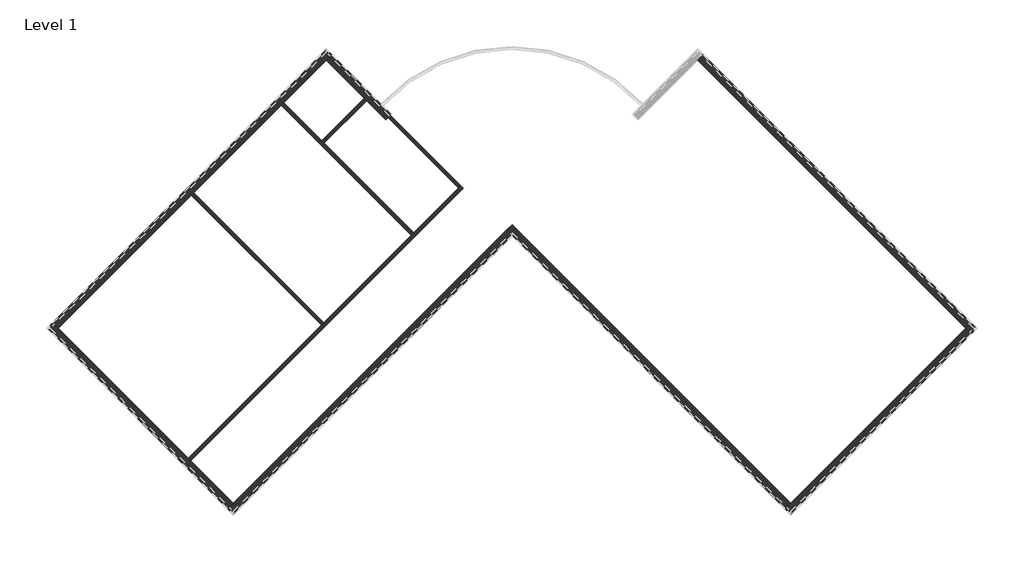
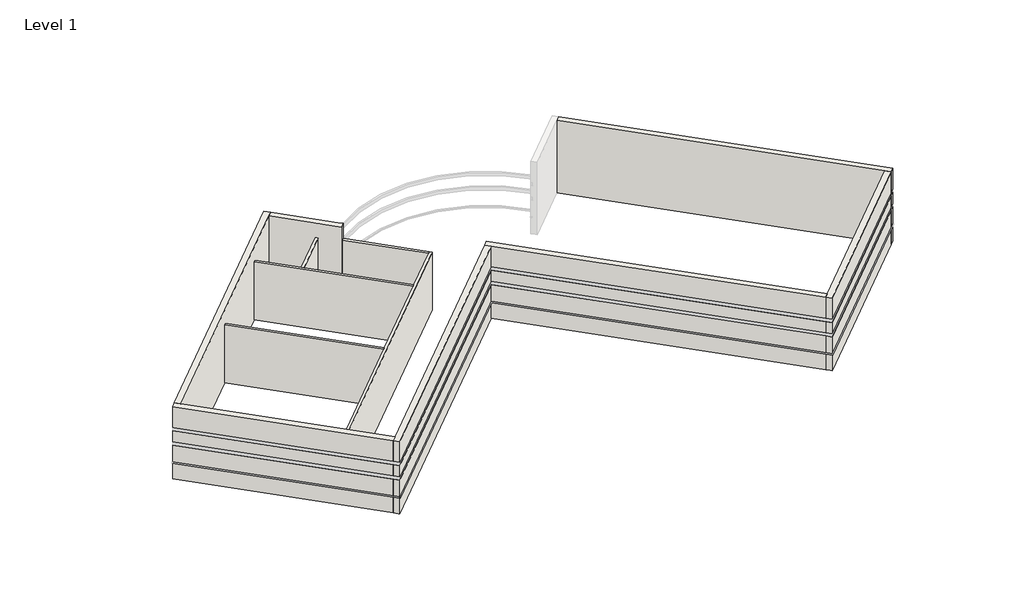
# One storey, part 1 of 2: 12 walls.
"""IFC4 building model written with IfcOpenShell, lengths in millimetres."""

import ifcopenshell
import ifcopenshell.guid

model = None  # the IFC model being written
_history = None  # IfcOwnerHistory: only IFC2X3 demands one
_inside = {}  # id of a spatial element -> (the spatial element, [elements in it])
_under = {}  # id of a project, library or spatial element -> (it, [spatial elements below it])
_declared = {}  # id of a project -> (the project, [libraries it declares])
_typed = {}  # id of a type object -> (the type object, [elements of that type])
_made_of = {}  # id of a material, layer set ... -> (it, [elements and type objects made of it])


def new_model(schema):
    """Start an empty IFC model of exactly this schema.

    Asked for "IFC4X3", IfcOpenShell would pick the latest addendum, in which some entities
    have other attributes; the version numbers below select the first issue.
    IFC2X3 requires an IfcOwnerHistory on every rooted entity: one is made here for all.
    """
    global model, _history
    if schema == "IFC4X3":
        model = ifcopenshell.file(schema_version=(4, 3, 0, 0))
    else:
        model = ifcopenshell.file(schema=schema)
    _inside.clear()
    _under.clear()
    _declared.clear()
    _typed.clear()
    _made_of.clear()
    _history = None
    if model.schema == "IFC2X3":
        org = make("IfcOrganization", Name="unknown")
        user = make(
            "IfcPersonAndOrganization",
            ThePerson=make("IfcPerson", FamilyName="unknown"),
            TheOrganization=org,
        )
        app = make(
            "IfcApplication",
            ApplicationDeveloper=org,
            Version="unknown",
            ApplicationFullName="unknown",
            ApplicationIdentifier="unknown",
        )
        _history = make(
            "IfcOwnerHistory",
            OwningUser=user,
            OwningApplication=app,
            ChangeAction="ADDED",
            CreationDate=0,
        )
    return model


def make(cls, **values):
    """One entity of the class cls with the attributes given. An attribute that is None is left unset."""
    return model.create_entity(
        cls, **{name: value for name, value in values.items() if value is not None}
    )


def rooted(cls, **values):
    """An entity with a GlobalId (a new one), such as an element, a storey or a relation."""
    return make(cls, GlobalId=ifcopenshell.guid.new(), OwnerHistory=_history, **values)


def si_unit(unit_type, name, prefix=None):
    """IfcSIUnit, for example si_unit("LENGTHUNIT", "METRE", prefix="MILLI")."""
    return make("IfcSIUnit", UnitType=unit_type, Prefix=prefix, Name=name)


def assignment(units):
    """IfcUnitAssignment: the units of a project."""
    return None if units is None else make("IfcUnitAssignment", Units=units)


def point(xyz):
    """IfcCartesianPoint."""
    return None if xyz is None else make("IfcCartesianPoint", Coordinates=xyz)


def direction(xyz):
    """IfcDirection."""
    return None if xyz is None else make("IfcDirection", DirectionRatios=xyz)


def frame(location, z_axis=None, x_axis=None):
    """IfcAxis2Placement3D, a coordinate frame: its origin and axes. An axis left out is left unset."""
    return make(
        "IfcAxis2Placement3D",
        Location=point(location),
        Axis=direction(z_axis),
        RefDirection=direction(x_axis),
    )


def origin():
    """The frame at (0, 0, 0) with its axes left unset."""
    return frame((0.0, 0.0, 0.0))


def origin_with_axes():
    """The frame at (0, 0, 0) with the z axis (0, 0, 1) and the x axis (1, 0, 0) written out."""
    return frame((0.0, 0.0, 0.0), z_axis=(0.0, 0.0, 1.0), x_axis=(1.0, 0.0, 0.0))


def place(relative_to, where):
    """IfcLocalPlacement: puts the frame where relative to a parent placement (None: the world)."""
    return make(
        "IfcLocalPlacement", PlacementRelTo=relative_to, RelativePlacement=where
    )


def context(
    kind, dimensions, precision=None, world=None, true_north=None, identifier=None
):
    """IfcGeometricRepresentationContext, for example the 3D "Model" context."""
    return make(
        "IfcGeometricRepresentationContext",
        ContextIdentifier=identifier,
        ContextType=kind,
        CoordinateSpaceDimension=dimensions,
        Precision=precision,
        WorldCoordinateSystem=world,
        TrueNorth=true_north,
    )


def project(units=None, contexts=None):
    """IfcProject with its units and contexts."""
    return rooted(
        "IfcProject",
        Name="project",
        RepresentationContexts=contexts,
        UnitsInContext=assignment(units),
    )


def spatial(cls, under=None, at=None, **own):
    """A site, building, storey or space (cls), placed at a placement, below another one or the project."""
    s = rooted(cls, ObjectPlacement=at, **own)
    if under is not None:
        _under.setdefault(under.id(), (under, []))[1].append(s)
    return s


def polyline(points):
    """IfcPolyline through the points."""
    return make("IfcPolyline", Points=[point(p) for p in points])


def outline(outer, holes=None, kind="AREA"):
    """IfcArbitraryClosedProfileDef: a profile drawn as a closed curve; with holes, ...WithVoids."""
    if holes is None:
        return make("IfcArbitraryClosedProfileDef", ProfileType=kind, OuterCurve=outer)
    return make(
        "IfcArbitraryProfileDefWithVoids",
        ProfileType=kind,
        OuterCurve=outer,
        InnerCurves=holes,
    )


def extrude(swept, where, along, depth):
    """IfcExtrudedAreaSolid: the profile swept, set in the frame where, extruded along a direction by depth."""
    return make(
        "IfcExtrudedAreaSolid",
        SweptArea=swept,
        Position=where,
        ExtrudedDirection=direction(along),
        Depth=depth,
    )


def faces_of(points, faces, orient=None, outer=None):
    """IfcFace entities. A face is a list of loops; a loop is a list of indices into points, from 0.

    orient and outer hold one flag for each loop. By default every Orientation is true, the
    first loop of a face is its IfcFaceOuterBound and the others are IfcFaceBound.
    """
    made = []
    for i, loops in enumerate(faces):
        bounds = []
        for j, loop in enumerate(loops):
            is_outer = j == 0 if outer is None else outer[i][j]
            bounds.append(
                make(
                    "IfcFaceOuterBound" if is_outer else "IfcFaceBound",
                    Bound=make("IfcPolyLoop", Polygon=[points[k] for k in loop]),
                    Orientation=True if orient is None else orient[i][j],
                )
            )
        made.append(make("IfcFace", Bounds=bounds))
    return made


def faceted_brep(points, faces, orient=None, outer=None, voids=None):
    """IfcFacetedBrep: a solid bounded by flat faces; with voids (closed shells), ...WithVoids."""
    shared = [point(p) for p in points]
    hull = make("IfcClosedShell", CfsFaces=faces_of(shared, faces, orient, outer))
    if voids is None:
        return make("IfcFacetedBrep", Outer=hull)
    return make(
        "IfcFacetedBrepWithVoids",
        Outer=hull,
        Voids=[
            make(cls, CfsFaces=faces_of(shared, fs, o, b)) for cls, fs, o, b in voids
        ],
    )


def shape(context_of_items, identifier, shape_type, items):
    """IfcShapeRepresentation: the items that make up one representation, for example the "Body"."""
    return make(
        "IfcShapeRepresentation",
        ContextOfItems=context_of_items,
        RepresentationIdentifier=identifier,
        RepresentationType=shape_type,
        Items=items,
    )


def made_of(thing, what):
    """Note that an element or type object is made of a material, layer set ...; save() writes the relation."""
    if what is not None:
        _made_of.setdefault(what.id(), (what, []))[1].append(thing)
    return thing


def element(
    cls,
    number,
    at=None,
    inside=None,
    cuts=None,
    type_object=None,
    material=None,
    context=None,
    identifier="Body",
    shape_type=None,
    held_by="IfcProductDefinitionShape",
    body=None,
    shapes=None,
    **own,
):
    """One element of the class cls, such as IfcWall. Its Tag is "e" and its number.

    at: its placement. inside: the storey or other place that contains it. cuts: it is an
    opening in that element (IfcRelVoidsElement). A single representation is given by context,
    identifier, shape_type and body (its items); several are given by shapes. held_by: the class
    of the entity that holds the representations. save() writes the other relations.
    """
    e = rooted(cls, Tag="e%d" % number, ObjectPlacement=at, **own)
    if body is not None:
        shapes = [shape(context, identifier, shape_type, body)]
    if shapes is not None:
        e.Representation = make(held_by, Representations=shapes)
    if inside is not None:
        _inside.setdefault(inside.id(), (inside, []))[1].append(e)
    if cuts is not None:
        rooted(
            "IfcRelVoidsElement", RelatingBuildingElement=cuts, RelatedOpeningElement=e
        )
    if type_object is not None:
        _typed.setdefault(type_object.id(), (type_object, []))[1].append(e)
    return made_of(e, material)


def aggregate(whole, parts):
    """IfcRelAggregates: a whole, such as a stair, and the parts it consists of."""
    return rooted("IfcRelAggregates", RelatingObject=whole, RelatedObjects=parts)


def save(model, path):
    """Write the relations noted so far, then the file.

    IfcRelAggregates (storeys below a building ...), IfcRelContainedInSpatialStructure (elements
    in a storey), IfcRelDefinesByType, IfcRelAssociatesMaterial and IfcRelDeclares: one each for
    every whole, place, type object, material and project.
    """
    for whole, parts in _under.values():
        aggregate(whole, parts)
    for where, things in _inside.values():
        rooted(
            "IfcRelContainedInSpatialStructure",
            RelatedElements=things,
            RelatingStructure=where,
        )
    for kind, things in _typed.values():
        rooted("IfcRelDefinesByType", RelatedObjects=things, RelatingType=kind)
    for what, things in _made_of.values():
        rooted("IfcRelAssociatesMaterial", RelatedObjects=things, RelatingMaterial=what)
    for by, libraries in _declared.values():
        rooted("IfcRelDeclares", RelatingContext=by, RelatedDefinitions=libraries)
    model.write(path)


model = new_model("IFC4")

# Units and contexts
model_context = context("Model", 3, world=origin())
ifc_project = project(units=[si_unit("LENGTHUNIT", "METRE", prefix="MILLI")], contexts=[model_context])

# Site, building, storey
site = spatial("IfcSite", under=ifc_project)
building = spatial("IfcBuilding", under=site)
storey = spatial("IfcBuildingStorey", under=building, Name="Level 1", Elevation=0.0)

# Walls
placement = place(None, origin())
element("IfcWall", 1, ObjectType="Exterior - Split Face and CMU on Mtl. Stud", at=placement, inside=storey, context=model_context, shape_type="Brep", body=[
    faceted_brep([(7404.7471239, 4430.5365699, 0.0), (19837.9117235, -8002.6280297, 0.0), (20087.1138309, -8251.830137, 0.0), (20087.1138309, -8251.830137, 1016.0), (20022.006974, -8186.7232802, 1016.0), (20022.006974, -8186.7232802, 1085.85), (20087.1138309, -8251.830137, 1085.85), (20087.1138309, -8251.830137, 2133.6), (20022.006974, -8186.7232802, 2133.6), (20022.006974, -8186.7232802, 2336.8), (20087.1138309, -8251.830137, 2336.8), (20087.1138309, -8251.830137, 3048.0), (20022.006974, -8186.7232802, 3048.0), (20022.006974, -8186.7232802, 3251.2), (20087.1138309, -8251.830137, 3251.2), (20087.1138309, -8251.830137, 4572.0), (19837.9117235, -8002.6280297, 4572.0), (7404.7471239, 4430.5365699, 4572.0), (7653.9492313, 4679.7386773, 4572.0), (20336.3159382, -8002.6280297, 4572.0), (20336.3159382, -8002.6280297, 3251.2), (7653.9492313, 4679.7386773, 3251.2), (20336.3159382, -8002.6280297, 0.0), (7653.9492313, 4679.7386773, 0.0), (7653.9492313, 4679.7386773, 1016.0), (20336.3159382, -8002.6280297, 1016.0), (20336.3159382, -8002.6280297, 1085.85), (7653.9492313, 4679.7386773, 1085.85), (7653.9492313, 4679.7386773, 2133.6), (20336.3159382, -8002.6280297, 2133.6), (20336.3159382, -8002.6280297, 2336.8), (7653.9492313, 4679.7386773, 2336.8), (7653.9492313, 4679.7386773, 3048.0), (20336.3159382, -8002.6280297, 3048.0), (7588.8423744, 4614.6318204, 0.0), (20271.2090814, -8067.7348866, 0.0), (20206.1022245, -8002.6280297, 1016.0), (7588.8423744, 4614.6318204, 1016.0), (7588.8423744, 4614.6318204, 1085.85), (20206.1022245, -8002.6280297, 1085.85), (20206.1022245, -8002.6280297, 2133.6), (7588.8423744, 4614.6318204, 2133.6), (7588.8423744, 4614.6318204, 2336.8), (20206.1022245, -8002.6280297, 2336.8), (20206.1022245, -8002.6280297, 3251.2), (20206.1022245, -8002.6280297, 3048.0), (7588.8423744, 4614.6318204, 3048.0), (7588.8423744, 4614.6318204, 3251.2)], [[[0, 1, 2, 3, 4, 5, 6, 7, 8, 9, 10, 11, 12, 13, 14, 15, 16, 17]], [[18, 19, 20, 21]], [[22, 23, 24, 25]], [[26, 27, 28, 29]], [[30, 31, 32, 33]], [[17, 16, 15, 19, 18]], [[2, 1, 0, 34, 35]], [[36, 37, 38, 39]], [[40, 41, 42, 43]], [[44, 45, 46, 47]], [[0, 17, 18, 21, 47, 46, 32, 31, 42, 41, 28, 27, 38, 37, 24, 23, 34]], [[23, 22, 35, 34]], [[39, 38, 27, 26, 6, 5]], [[37, 36, 4, 3, 25, 24]], [[41, 40, 8, 7, 29, 28]], [[43, 42, 31, 30, 10, 9]], [[46, 45, 12, 11, 33, 32]], [[13, 44, 47, 21, 20, 14]], [[19, 15, 14, 20]], [[2, 35, 22, 25, 3]], [[6, 26, 29, 7]], [[10, 30, 33, 11]], [[36, 39, 5, 4]], [[40, 43, 9, 8]], [[45, 44, 13, 12]]]),
])
element("IfcWall", 2, ObjectType="Exterior - Split Face and CMU on Mtl. Stud", at=placement, inside=storey, context=model_context, shape_type="Brep", body=[
    faceted_brep([(19837.9117235, -8002.6280297, 0.0), (11715.270062, -16125.2696912, 0.0), (11466.0679546, -16374.4717985, 0.0), (11466.0679546, -16374.4717985, 1016.0), (11531.1748115, -16309.3649417, 1016.0), (11531.1748115, -16309.3649417, 1085.85), (11466.0679546, -16374.4717985, 1085.85), (11466.0679546, -16374.4717985, 2133.6), (11531.1748115, -16309.3649417, 2133.6), (11531.1748115, -16309.3649417, 2336.8), (11466.0679546, -16374.4717985, 2336.8), (11466.0679546, -16374.4717985, 3048.0), (11531.1748115, -16309.3649417, 3048.0), (11531.1748115, -16309.3649417, 3251.2), (11466.0679546, -16374.4717985, 3251.2), (11466.0679546, -16374.4717985, 4572.0), (11715.270062, -16125.2696912, 4572.0), (19837.9117235, -8002.6280297, 4572.0), (20087.1138309, -8251.830137, 4572.0), (11715.270062, -16623.6739059, 4572.0), (11715.270062, -16623.6739059, 3251.2), (20087.1138309, -8251.830137, 3251.2), (11715.270062, -16623.6739059, 0.0), (20087.1138309, -8251.830137, 0.0), (20087.1138309, -8251.830137, 1016.0), (11715.270062, -16623.6739059, 1016.0), (11715.270062, -16623.6739059, 1085.85), (20087.1138309, -8251.830137, 1085.85), (20087.1138309, -8251.830137, 2133.6), (11715.270062, -16623.6739059, 2133.6), (11715.270062, -16623.6739059, 2336.8), (20087.1138309, -8251.830137, 2336.8), (20087.1138309, -8251.830137, 3048.0), (11715.270062, -16623.6739059, 3048.0), (20022.006974, -8186.7232802, 0.0), (11650.1632051, -16558.567049, 0.0), (11715.270062, -16493.4601921, 1016.0), (20022.006974, -8186.7232802, 1016.0), (20022.006974, -8186.7232802, 1085.85), (11715.270062, -16493.4601921, 1085.85), (11715.270062, -16493.4601921, 2133.6), (20022.006974, -8186.7232802, 2133.6), (20022.006974, -8186.7232802, 2336.8), (11715.270062, -16493.4601921, 2336.8), (11715.270062, -16493.4601921, 3251.2), (11715.270062, -16493.4601921, 3048.0), (20022.006974, -8186.7232802, 3048.0), (20022.006974, -8186.7232802, 3251.2)], [[[0, 1, 2, 3, 4, 5, 6, 7, 8, 9, 10, 11, 12, 13, 14, 15, 16, 17]], [[18, 19, 20, 21]], [[22, 23, 24, 25]], [[26, 27, 28, 29]], [[30, 31, 32, 33]], [[17, 16, 15, 19, 18]], [[2, 1, 0, 34, 35]], [[36, 37, 38, 39]], [[40, 41, 42, 43]], [[44, 45, 46, 47]], [[0, 17, 18, 21, 47, 46, 32, 31, 42, 41, 28, 27, 38, 37, 24, 23, 34]], [[23, 22, 35, 34]], [[39, 38, 27, 26, 6, 5]], [[37, 36, 4, 3, 25, 24]], [[41, 40, 8, 7, 29, 28]], [[43, 42, 31, 30, 10, 9]], [[46, 45, 12, 11, 33, 32]], [[13, 44, 47, 21, 20, 14]], [[19, 15, 14, 20]], [[2, 35, 22, 25, 3]], [[6, 26, 29, 7]], [[10, 30, 33, 11]], [[36, 39, 5, 4]], [[40, 43, 9, 8]], [[45, 44, 13, 12]]]),
])
element("IfcWall", 3, ObjectType="Exterior - Split Face and CMU on Mtl. Stud", at=placement, inside=storey, context=model_context, shape_type="Brep", body=[
    faceted_brep([(11715.270062, -16125.2696912, 0.0), (-1216.2987523, -3193.7008768, 0.0), (-1216.2987523, -3193.7008768, 4572.0), (11715.270062, -16125.2696912, 4572.0), (11466.0679546, -16374.4717985, 4572.0), (-1216.2987523, -3692.1050916, 4572.0), (-1465.5008597, -3442.9029842, 4572.0), (-1465.5008597, -3442.9029842, 0.0), (-1216.2987523, -3692.1050916, 0.0), (11466.0679546, -16374.4717985, 0.0), (11466.0679546, -16374.4717985, 1016.0), (-1216.2987523, -3692.1050916, 1016.0), (-1281.4056092, -3626.9982347, 1016.0), (-1281.4056092, -3626.9982347, 1085.85), (-1216.2987523, -3692.1050916, 1085.85), (11466.0679546, -16374.4717985, 1085.85), (11466.0679546, -16374.4717985, 2133.6), (-1216.2987523, -3692.1050916, 2133.6), (-1281.4056092, -3626.9982347, 2133.6), (-1281.4056092, -3626.9982347, 2336.8), (-1216.2987523, -3692.1050916, 2336.8), (11466.0679546, -16374.4717985, 2336.8), (11466.0679546, -16374.4717985, 3048.0), (-1216.2987523, -3692.1050916, 3048.0), (-1281.4056092, -3626.9982347, 3048.0), (-1281.4056092, -3626.9982347, 3251.2), (-1216.2987523, -3692.1050916, 3251.2), (11466.0679546, -16374.4717985, 3251.2), (11531.1748115, -16309.3649417, 0.0), (-1400.3940028, -3377.7961273, 0.0), (-1216.2987523, -3561.8913778, 1016.0), (11531.1748115, -16309.3649417, 1016.0), (11531.1748115, -16309.3649417, 1085.85), (-1216.2987523, -3561.8913778, 1085.85), (-1216.2987523, -3561.8913778, 2133.6), (11531.1748115, -16309.3649417, 2133.6), (11531.1748115, -16309.3649417, 2336.8), (-1216.2987523, -3561.8913778, 2336.8), (-1216.2987523, -3561.8913778, 3251.2), (-1216.2987523, -3561.8913778, 3048.0), (11531.1748115, -16309.3649417, 3048.0), (11531.1748115, -16309.3649417, 3251.2)], [[[0, 1, 2, 3]], [[4, 5, 6, 7, 8, 9, 10, 11, 12, 13, 14, 15, 16, 17, 18, 19, 20, 21, 22, 23, 24, 25, 26, 27]], [[3, 2, 6, 5, 4]], [[1, 0, 28, 29]], [[30, 31, 32, 33]], [[34, 35, 36, 37]], [[38, 39, 40, 41]], [[0, 3, 4, 27, 41, 40, 22, 21, 36, 35, 16, 15, 32, 31, 10, 9, 28]], [[9, 8, 7, 29, 28]], [[33, 32, 15, 14, 13]], [[31, 30, 12, 11, 10]], [[35, 34, 18, 17, 16]], [[37, 36, 21, 20, 19]], [[40, 39, 24, 23, 22]], [[25, 38, 41, 27, 26]], [[2, 1, 29, 7, 6]], [[30, 33, 13, 12]], [[34, 37, 19, 18]], [[39, 38, 25, 24]]]),
])
element("IfcWall", 4, ObjectType="Exterior - Split Face and CMU on Mtl. Stud", at=placement, inside=storey, context=model_context, shape_type="Brep", body=[
    faceted_brep([(-1465.5008597, -3442.9029842, 0.0), (-14147.8675667, -16125.2696912, 0.0), (-14397.069674, -16374.4717985, 0.0), (-14397.069674, -16374.4717985, 1016.0), (-14331.9628172, -16309.3649417, 1016.0), (-14331.9628172, -16309.3649417, 1085.85), (-14397.069674, -16374.4717985, 1085.85), (-14397.069674, -16374.4717985, 2133.6), (-14331.9628172, -16309.3649417, 2133.6), (-14331.9628172, -16309.3649417, 2336.8), (-14397.069674, -16374.4717985, 2336.8), (-14397.069674, -16374.4717985, 3048.0), (-14331.9628172, -16309.3649417, 3048.0), (-14331.9628172, -16309.3649417, 3251.2), (-14397.069674, -16374.4717985, 3251.2), (-14397.069674, -16374.4717985, 4572.0), (-14147.8675667, -16125.2696912, 4572.0), (-1465.5008597, -3442.9029842, 4572.0), (-1216.2987523, -3692.1050916, 4572.0), (-14147.8675667, -16623.6739059, 4572.0), (-14147.8675667, -16623.6739059, 3251.2), (-1216.2987523, -3692.1050916, 3251.2), (-14147.8675667, -16623.6739059, 0.0), (-1216.2987523, -3692.1050916, 0.0), (-1216.2987523, -3692.1050916, 1016.0), (-14147.8675667, -16623.6739059, 1016.0), (-14147.8675667, -16623.6739059, 1085.85), (-1216.2987523, -3692.1050916, 1085.85), (-1216.2987523, -3692.1050916, 2133.6), (-14147.8675667, -16623.6739059, 2133.6), (-14147.8675667, -16623.6739059, 2336.8), (-1216.2987523, -3692.1050916, 2336.8), (-1216.2987523, -3692.1050916, 3048.0), (-14147.8675667, -16623.6739059, 3048.0), (-1281.4056092, -3626.9982347, 0.0), (-14212.9744236, -16558.567049, 0.0), (-14147.8675667, -16493.4601921, 1016.0), (-1281.4056092, -3626.9982347, 1016.0), (-1281.4056092, -3626.9982347, 1085.85), (-14147.8675667, -16493.4601921, 1085.85), (-14147.8675667, -16493.4601921, 2133.6), (-1281.4056092, -3626.9982347, 2133.6), (-1281.4056092, -3626.9982347, 2336.8), (-14147.8675667, -16493.4601921, 2336.8), (-14147.8675667, -16493.4601921, 3251.2), (-14147.8675667, -16493.4601921, 3048.0), (-1281.4056092, -3626.9982347, 3048.0), (-1281.4056092, -3626.9982347, 3251.2)], [[[0, 1, 2, 3, 4, 5, 6, 7, 8, 9, 10, 11, 12, 13, 14, 15, 16, 17]], [[18, 19, 20, 21]], [[22, 23, 24, 25]], [[26, 27, 28, 29]], [[30, 31, 32, 33]], [[17, 16, 15, 19, 18]], [[2, 1, 0, 34, 35]], [[36, 37, 38, 39]], [[40, 41, 42, 43]], [[44, 45, 46, 47]], [[0, 17, 18, 21, 47, 46, 32, 31, 42, 41, 28, 27, 38, 37, 24, 23, 34]], [[23, 22, 35, 34]], [[39, 38, 27, 26, 6, 5]], [[37, 36, 4, 3, 25, 24]], [[41, 40, 8, 7, 29, 28]], [[43, 42, 31, 30, 10, 9]], [[46, 45, 12, 11, 33, 32]], [[13, 44, 47, 21, 20, 14]], [[19, 15, 14, 20]], [[2, 35, 22, 25, 3]], [[6, 26, 29, 7]], [[10, 30, 33, 11]], [[36, 39, 5, 4]], [[40, 43, 9, 8]], [[45, 44, 13, 12]]]),
])
element("IfcWall", 5, ObjectType="Exterior - Split Face and CMU on Mtl. Stud", at=placement, inside=storey, context=model_context, shape_type="Brep", body=[
    faceted_brep([(-14147.8675667, -16125.2696912, 0.0), (-16123.5239133, -14149.6133445, 0.0), (-16233.5320508, -14039.6052071, 0.0), (-22270.5092282, -8002.6280297, 0.0), (-22519.7113355, -7753.4259223, 0.0), (-22519.7113355, -7753.4259223, 1016.0), (-22454.6044787, -7818.5327792, 1016.0), (-22454.6044787, -7818.5327792, 1085.85), (-22519.7113355, -7753.4259223, 1085.85), (-22519.7113355, -7753.4259223, 2133.6), (-22454.6044787, -7818.5327792, 2133.6), (-22454.6044787, -7818.5327792, 2336.8), (-22519.7113355, -7753.4259223, 2336.8), (-22519.7113355, -7753.4259223, 3048.0), (-22454.6044787, -7818.5327792, 3048.0), (-22454.6044787, -7818.5327792, 3251.2), (-22519.7113355, -7753.4259223, 3251.2), (-22519.7113355, -7753.4259223, 4572.0), (-22270.5092282, -8002.6280297, 4572.0), (-14147.8675667, -16125.2696912, 4572.0), (-14397.069674, -16374.4717985, 4572.0), (-22768.9134429, -8002.6280297, 4572.0), (-22768.9134429, -8002.6280297, 3251.2), (-14397.069674, -16374.4717985, 3251.2), (-22768.9134429, -8002.6280297, 0.0), (-14397.069674, -16374.4717985, 0.0), (-14397.069674, -16374.4717985, 1016.0), (-22768.9134429, -8002.6280297, 1016.0), (-22768.9134429, -8002.6280297, 1085.85), (-14397.069674, -16374.4717985, 1085.85), (-14397.069674, -16374.4717985, 2133.6), (-22768.9134429, -8002.6280297, 2133.6), (-22768.9134429, -8002.6280297, 2336.8), (-14397.069674, -16374.4717985, 2336.8), (-14397.069674, -16374.4717985, 3048.0), (-22768.9134429, -8002.6280297, 3048.0), (-14331.9628172, -16309.3649417, 0.0), (-22703.806586, -7937.5211728, 0.0), (-22638.6997291, -8002.6280297, 1016.0), (-14331.9628172, -16309.3649417, 1016.0), (-14331.9628172, -16309.3649417, 1085.85), (-22638.6997291, -8002.6280297, 1085.85), (-22638.6997291, -8002.6280297, 2133.6), (-14331.9628172, -16309.3649417, 2133.6), (-14331.9628172, -16309.3649417, 2336.8), (-22638.6997291, -8002.6280297, 2336.8), (-22638.6997291, -8002.6280297, 3251.2), (-22638.6997291, -8002.6280297, 3048.0), (-14331.9628172, -16309.3649417, 3048.0), (-14331.9628172, -16309.3649417, 3251.2)], [[[0, 1, 2, 3, 4, 5, 6, 7, 8, 9, 10, 11, 12, 13, 14, 15, 16, 17, 18, 19]], [[20, 21, 22, 23]], [[24, 25, 26, 27]], [[28, 29, 30, 31]], [[32, 33, 34, 35]], [[19, 18, 17, 21, 20]], [[4, 3, 2, 1, 0, 36, 37]], [[38, 39, 40, 41]], [[42, 43, 44, 45]], [[46, 47, 48, 49]], [[0, 19, 20, 23, 49, 48, 34, 33, 44, 43, 30, 29, 40, 39, 26, 25, 36]], [[25, 24, 37, 36]], [[41, 40, 29, 28, 8, 7]], [[39, 38, 6, 5, 27, 26]], [[43, 42, 10, 9, 31, 30]], [[45, 44, 33, 32, 12, 11]], [[48, 47, 14, 13, 35, 34]], [[15, 46, 49, 23, 22, 16]], [[21, 17, 16, 22]], [[4, 37, 24, 27, 5]], [[8, 28, 31, 9]], [[12, 32, 35, 13]], [[38, 41, 7, 6]], [[42, 45, 11, 10]], [[47, 46, 15, 14]]]),
])
element("IfcWall", 6, ObjectType="Exterior - Split Face and CMU on Mtl. Stud", at=placement, inside=storey, context=model_context, shape_type="Brep", body=[
    faceted_brep([(-22270.5092282, -8002.6280297, 0.0), (-16092.0930169, -1824.2118184, 0.0), (-15982.0848794, -1714.2036809, 0.0), (-11923.0091127, 2344.8720858, 0.0), (-11813.0009752, 2454.8802233, 0.0), (-9837.3446286, 4430.5365699, 0.0), (-9588.1425212, 4679.7386773, 0.0), (-9588.1425212, 4679.7386773, 1016.0), (-9653.2493781, 4614.6318204, 1016.0), (-9653.2493781, 4614.6318204, 1085.85), (-9588.1425212, 4679.7386773, 1085.85), (-9588.1425212, 4679.7386773, 2133.6), (-9653.2493781, 4614.6318204, 2133.6), (-9653.2493781, 4614.6318204, 2336.8), (-9588.1425212, 4679.7386773, 2336.8), (-9588.1425212, 4679.7386773, 3048.0), (-9653.2493781, 4614.6318204, 3048.0), (-9653.2493781, 4614.6318204, 3251.2), (-9588.1425212, 4679.7386773, 3251.2), (-9588.1425212, 4679.7386773, 4572.0), (-9837.3446286, 4430.5365699, 4572.0), (-22270.5092282, -8002.6280297, 4572.0), (-22519.7113355, -7753.4259223, 4572.0), (-9837.3446286, 4928.9407847, 4572.0), (-9837.3446286, 4928.9407847, 3251.2), (-22519.7113355, -7753.4259223, 3251.2), (-9837.3446286, 4928.9407847, 0.0), (-22519.7113355, -7753.4259223, 0.0), (-22519.7113355, -7753.4259223, 1016.0), (-9837.3446286, 4928.9407847, 1016.0), (-9837.3446286, 4928.9407847, 1085.85), (-22519.7113355, -7753.4259223, 1085.85), (-22519.7113355, -7753.4259223, 2133.6), (-9837.3446286, 4928.9407847, 2133.6), (-9837.3446286, 4928.9407847, 2336.8), (-22519.7113355, -7753.4259223, 2336.8), (-22519.7113355, -7753.4259223, 3048.0), (-9837.3446286, 4928.9407847, 3048.0), (-22454.6044787, -7818.5327792, 0.0), (-9772.2377717, 4863.8339278, 0.0), (-9837.3446286, 4798.7270709, 1016.0), (-22454.6044787, -7818.5327792, 1016.0), (-22454.6044787, -7818.5327792, 1085.85), (-9837.3446286, 4798.7270709, 1085.85), (-9837.3446286, 4798.7270709, 2133.6), (-22454.6044787, -7818.5327792, 2133.6), (-22454.6044787, -7818.5327792, 2336.8), (-9837.3446286, 4798.7270709, 2336.8), (-9837.3446286, 4798.7270709, 3251.2), (-9837.3446286, 4798.7270709, 3048.0), (-22454.6044787, -7818.5327792, 3048.0), (-22454.6044787, -7818.5327792, 3251.2)], [[[0, 1, 2, 3, 4, 5, 6, 7, 8, 9, 10, 11, 12, 13, 14, 15, 16, 17, 18, 19, 20, 21]], [[22, 23, 24, 25]], [[26, 27, 28, 29]], [[30, 31, 32, 33]], [[34, 35, 36, 37]], [[21, 20, 19, 23, 22]], [[6, 5, 4, 3, 2, 1, 0, 38, 39]], [[40, 41, 42, 43]], [[44, 45, 46, 47]], [[48, 49, 50, 51]], [[0, 21, 22, 25, 51, 50, 36, 35, 46, 45, 32, 31, 42, 41, 28, 27, 38]], [[27, 26, 39, 38]], [[43, 42, 31, 30, 10, 9]], [[41, 40, 8, 7, 29, 28]], [[45, 44, 12, 11, 33, 32]], [[47, 46, 35, 34, 14, 13]], [[50, 49, 16, 15, 37, 36]], [[17, 48, 51, 25, 24, 18]], [[23, 19, 18, 24]], [[6, 39, 26, 29, 7]], [[10, 30, 33, 11]], [[14, 34, 37, 15]], [[40, 43, 9, 8]], [[44, 47, 13, 12]], [[49, 48, 17, 16]]]),
])
element("IfcWall", 7, ObjectType="Exterior - Split Face and CMU on Mtl. Stud", at=placement, inside=storey, context=model_context, shape_type="Brep", body=[
    faceted_brep([(-9837.3446286, 4430.5365699, 0.0), (-8077.2144288, 2670.4063702, 0.0), (-7967.2062913, 2560.3982327, 0.0), (-7069.1806792, 1662.3726206, 0.0), (-7069.1806792, 1662.3726206, 4572.0), (-9837.3446286, 4430.5365699, 4572.0), (-6819.9785719, 1911.574728, 2133.6), (-6819.9785719, 1911.574728, 1085.85), (-9588.1425212, 4679.7386773, 1085.85), (-9588.1425212, 4679.7386773, 2133.6), (-6819.9785719, 1911.574728, 2336.8), (-9588.1425212, 4679.7386773, 2336.8), (-9588.1425212, 4679.7386773, 3048.0), (-6819.9785719, 1911.574728, 3048.0), (-9588.1425212, 4679.7386773, 4572.0), (-7279.3684528, 2370.9646089, 4572.0), (-7029.9272722, 2121.5234283, 4572.0), (-6819.9785719, 1911.574728, 4572.0), (-6819.9785719, 1911.574728, 3251.2), (-9588.1425212, 4679.7386773, 3251.2), (-6819.9785719, 1911.574728, 0.0), (-7029.9272722, 2121.5234283, 0.0), (-7279.3684528, 2370.9646089, 0.0), (-9588.1425212, 4679.7386773, 0.0), (-9588.1425212, 4679.7386773, 1016.0), (-6819.9785719, 1911.574728, 1016.0), (-6965.9077338, 1765.645566, 0.0), (-6885.0854288, 1846.4678711, 0.0), (-6855.8995964, 1875.6537035, 0.0), (-6885.0854288, 1846.4678711, 1016.0), (-6885.0854288, 1846.4678711, 1085.85), (-6885.0854288, 1846.4678711, 2133.6), (-6885.0854288, 1846.4678711, 2336.8), (-6885.0854288, 1846.4678711, 3048.0), (-6885.0854288, 1846.4678711, 3251.2), (-9653.2493781, 4614.6318204, 0.0), (-9653.2493781, 4614.6318204, 1016.0), (-9653.2493781, 4614.6318204, 1085.85), (-9653.2493781, 4614.6318204, 2133.6), (-9653.2493781, 4614.6318204, 2336.8), (-9653.2493781, 4614.6318204, 3048.0), (-9653.2493781, 4614.6318204, 3251.2)], [[[0, 1, 2, 3, 4, 5]], [[6, 7, 8, 9]], [[10, 11, 12, 13]], [[14, 15, 16, 17, 18, 19]], [[20, 21, 22, 23, 24, 25]], [[4, 3, 26, 27, 28, 20, 25, 29, 30, 7, 6, 31, 32, 10, 13, 33, 34, 18, 17]], [[5, 4, 17, 16, 15, 14]], [[3, 2, 1, 0, 35, 27, 26]], [[30, 29, 36, 37]], [[32, 31, 38, 39]], [[33, 40, 41, 34]], [[0, 5, 14, 19, 41, 40, 12, 11, 39, 38, 9, 8, 37, 36, 24, 23, 35]], [[23, 22, 21, 20, 28, 27, 35]], [[30, 37, 8, 7]], [[36, 29, 25, 24]], [[38, 31, 6, 9]], [[32, 39, 11, 10]], [[40, 33, 13, 12]], [[34, 41, 19, 18]]]),
])
element("IfcWall", 8, ObjectType="Interior - 6 1/8\" Partition (2-hr)", at=placement, inside=storey, context=model_context, shape_type="Brep", body=[
    faceted_brep([(-16123.5239133, -14149.6133445, 0.0), (-3477.0782308, -1503.1676621, 0.0), (-3477.0782308, -1503.1676621, 3657.6), (-16123.5239133, -14149.6133445, 3657.6), (-16233.5320508, -14039.6052071, 0.0), (-16233.5320508, -14039.6052071, 3657.6), (-10055.1158395, -7861.1889958, 3657.6), (-9945.107702, -7751.1808583, 3657.6), (-5886.0319353, -3692.1050916, 3657.6), (-5776.0237978, -3582.0969541, 3657.6), (-3697.0945058, -1503.1676621, 3657.6), (-3587.0863683, -1393.1595246, 3657.6), (-3587.0863683, -1393.1595246, 0.0), (-3697.0945058, -1503.1676621, 0.0), (-5776.0237978, -3582.0969541, 0.0), (-5886.0319353, -3692.1050916, 0.0), (-9945.107702, -7751.1808583, 0.0), (-10055.1158395, -7861.1889958, 0.0)], [[[0, 1, 2, 3]], [[4, 5, 6, 7, 8, 9, 10, 11, 12, 13, 14, 15, 16, 17]], [[1, 0, 4, 17, 16, 15, 14, 13, 12]], [[3, 2, 11, 10, 9, 8, 7, 6, 5]], [[0, 3, 5, 4]], [[2, 1, 12, 11]]]),
])
element("IfcWall", 9, ObjectType="Interior - 6 1/8\" Partition (2-hr)", at=placement, inside=storey, context=model_context, shape_type="Brep", body=[
    faceted_brep([(-3587.0863683, -1393.1595246, 0.0), (-6855.8995964, 1875.6537035, 0.0), (-6855.8995964, 1875.6537035, 1016.0), (-6855.8995964, 1875.6537035, 1085.85), (-6855.8995964, 1875.6537035, 2133.6), (-6855.8995964, 1875.6537035, 2336.8), (-6855.8995964, 1875.6537035, 3048.0), (-6855.8995964, 1875.6537035, 3251.2), (-6855.8995964, 1875.6537035, 3657.6), (-3587.0863683, -1393.1595246, 3657.6), (-6965.9077338, 1765.645566, 0.0), (-3697.0945058, -1503.1676621, 0.0), (-3697.0945058, -1503.1676621, 3657.6), (-6965.9077338, 1765.645566, 3657.6)], [[[0, 1, 2, 3, 4, 5, 6, 7, 8, 9]], [[10, 11, 12, 13]], [[1, 0, 11, 10]], [[10, 13, 8, 7, 6, 5, 4, 3, 2, 1]], [[9, 8, 13, 12]], [[0, 9, 12, 11]]]),
])
element("IfcWall", 10, ObjectType="Interior - 6 1/8\" Partition (2-hr)", at=placement, inside=storey, context=model_context, shape_type="Brep", body=[
    faceted_brep([(-5776.0237978, -3582.0969541, 0.0), (-9942.862638, 584.7418861, 0.0), (-10052.8707755, 694.7500236, 0.0), (-11813.0009752, 2454.8802233, 0.0), (-11813.0009752, 2454.8802233, 3657.6), (-10052.8707755, 694.7500236, 3657.6), (-9942.862638, 584.7418861, 3657.6), (-5776.0237978, -3582.0969541, 3657.6), (-5886.0319353, -3692.1050916, 0.0), (-5886.0319353, -3692.1050916, 3657.6), (-11923.0091127, 2344.8720858, 3657.6), (-11923.0091127, 2344.8720858, 0.0)], [[[0, 1, 2, 3, 4, 5, 6, 7]], [[8, 9, 10, 11]], [[3, 2, 1, 0, 8, 11]], [[7, 6, 5, 4, 10, 9]], [[0, 7, 9, 8]], [[4, 3, 11, 10]]]),
])
element("IfcWall", 11, ObjectType="Interior - 6 1/8\" Partition (2-hr)", at=placement, inside=storey, context=model_context, shape_type="SweptSolid", body=[
    extrude(outline(polyline([(-7967.2062913, 2560.3982327), (-9942.862638, 584.7418861), (-10052.8707755, 694.7500236), (-8077.2144288, 2670.4063702), (-7967.2062913, 2560.3982327)])), origin_with_axes(), (0.0, 0.0, 1.0), 3657.6),
])
element("IfcWall", 12, ObjectType="Interior - 6 1/8\" Partition (2-hr)", at=placement, inside=storey, context=model_context, shape_type="SweptSolid", body=[
    extrude(outline(polyline([(-15982.0848794, -1714.2036809), (-9945.107702, -7751.1808583), (-10055.1158395, -7861.1889958), (-16092.0930169, -1824.2118184), (-15982.0848794, -1714.2036809)])), origin_with_axes(), (0.0, 0.0, 1.0), 3657.6),
])

save(model, "model.ifc")
